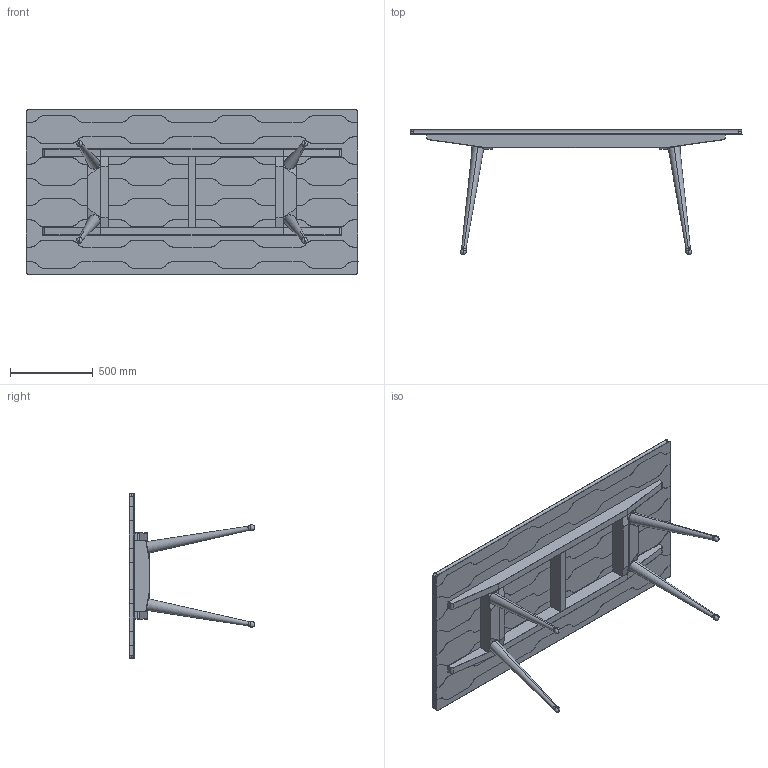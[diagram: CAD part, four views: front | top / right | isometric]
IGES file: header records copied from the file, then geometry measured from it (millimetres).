
Start section: SolidWorks IGES file using analytic representation for surfaces
Global section: file name: C:\Users\Kumagai\Desktop\408M Tavli Table_vd_2018-01-02\408M Tavli Table.IGS; native system: SolidWorks 2016; preprocessor: SolidWorks 2016; author: Kumagai; date: 180215.101931; units: millimetre
Bounding box: 2000 x 754.99 x 1000 mm (x, y, z)
Surface area: 6868267.6 mm2 (no closed solid volume)
Topology: 0 solids, 0 shells, 853 faces, 9700 edges, 9690 vertices
Faces by surface type: bspline 430, revolution 423
